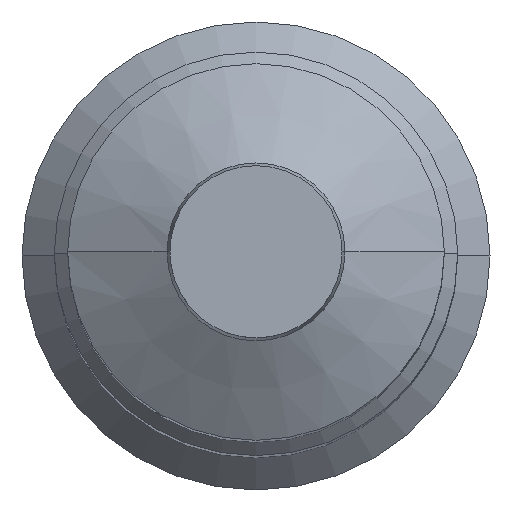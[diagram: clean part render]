
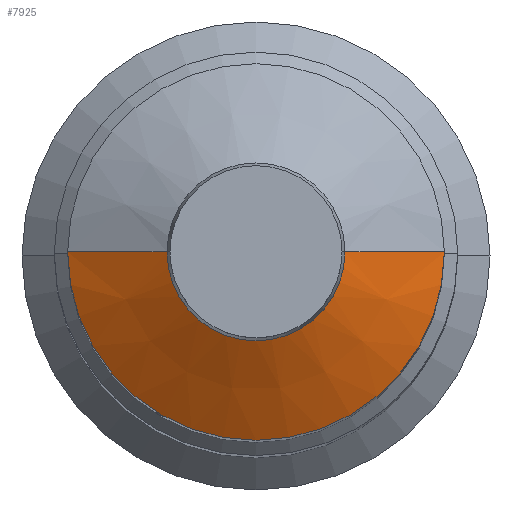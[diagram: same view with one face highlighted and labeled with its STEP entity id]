
A CAD part, top view. The second image highlights one B-rep face of the part: STEP entity #7925.
In plain terms, the highlighted conical face has half-angle 60 degrees and reference radius 35 mm.
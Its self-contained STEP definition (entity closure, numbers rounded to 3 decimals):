
#741 = DIRECTION ( 'NONE',  ( 1., 0., 0. ) ) ;
#2131 = FACE_OUTER_BOUND ( 'NONE', #23021, .T. ) ;
#2984 = VERTEX_POINT ( 'NONE', #11271 ) ;
#5340 = EDGE_CURVE ( 'NONE', #16066, #13247, #15458, .T. ) ;
#6037 = DIRECTION ( 'NONE',  ( 0., 0., -1. ) ) ;
#6060 = DIRECTION ( 'NONE',  ( -0.866, 0., -0.5 ) ) ;
#6282 = CARTESIAN_POINT ( 'NONE',  ( 35., 0., 476.54 ) ) ;
#6641 = DIRECTION ( 'NONE',  ( 0.866, 0., -0.5 ) ) ;
#7684 = EDGE_CURVE ( 'NONE', #16066, #19806, #26918, .T. ) ;
#7925 = ADVANCED_FACE ( 'NONE', ( #2131 ), #11319, .T. ) ;
#8516 = CARTESIAN_POINT ( 'NONE',  ( 0., 0., 476.54 ) ) ;
#8670 = CARTESIAN_POINT ( 'NONE',  ( 0., 0., 476.54 ) ) ;
#10080 = AXIS2_PLACEMENT_3D ( 'NONE', #8670, #24190, #10952 ) ;
#10188 = EDGE_CURVE ( 'NONE', #19806, #2984, #27094, .T. ) ;
#10555 = CARTESIAN_POINT ( 'NONE',  ( -35., 0., 476.54 ) ) ;
#10952 = DIRECTION ( 'NONE',  ( 1., 0., 0. ) ) ;
#11056 = CARTESIAN_POINT ( 'NONE',  ( 35., 0., 476.54 ) ) ;
#11271 = CARTESIAN_POINT ( 'NONE',  ( -35., 0., 476.54 ) ) ;
#11319 = CONICAL_SURFACE ( 'NONE', #26375, 35., 1.047 ) ;
#12731 = ORIENTED_EDGE ( 'NONE', *, *, #5340, .F. ) ;
#13247 = VERTEX_POINT ( 'NONE', #6282 ) ;
#13667 = AXIS2_PLACEMENT_3D ( 'NONE', #27472, #14258, #741 ) ;
#14258 = DIRECTION ( 'NONE',  ( 0., 0., -1. ) ) ;
#14454 = ORIENTED_EDGE ( 'NONE', *, *, #10188, .T. ) ;
#14736 = CARTESIAN_POINT ( 'NONE',  ( -16.536, 0., 487.2 ) ) ;
#14764 = VECTOR ( 'NONE', #6641, 1000. ) ;
#15458 = LINE ( 'NONE', #11056, #14764 ) ;
#16066 = VERTEX_POINT ( 'NONE', #20548 ) ;
#16869 = EDGE_CURVE ( 'NONE', #13247, #2984, #27296, .T. ) ;
#16871 = ORIENTED_EDGE ( 'NONE', *, *, #7684, .T. ) ;
#19726 = DIRECTION ( 'NONE',  ( 1., 0., 0. ) ) ;
#19806 = VERTEX_POINT ( 'NONE', #14736 ) ;
#20548 = CARTESIAN_POINT ( 'NONE',  ( 16.536, 0., 487.2 ) ) ;
#21010 = ORIENTED_EDGE ( 'NONE', *, *, #16869, .F. ) ;
#23021 = EDGE_LOOP ( 'NONE', ( #16871, #14454, #21010, #12731 ) ) ;
#24190 = DIRECTION ( 'NONE',  ( 0., 0., -1. ) ) ;
#26369 = VECTOR ( 'NONE', #6060, 1000. ) ;
#26375 = AXIS2_PLACEMENT_3D ( 'NONE', #8516, #6037, #19726 ) ;
#26918 = CIRCLE ( 'NONE', #13667, 16.536 ) ;
#27094 = LINE ( 'NONE', #10555, #26369 ) ;
#27296 = CIRCLE ( 'NONE', #10080, 35. ) ;
#27472 = CARTESIAN_POINT ( 'NONE',  ( 0., 0., 487.2 ) ) ;
